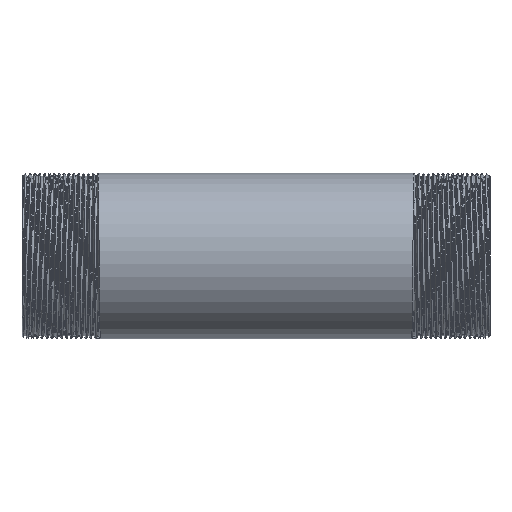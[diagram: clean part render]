
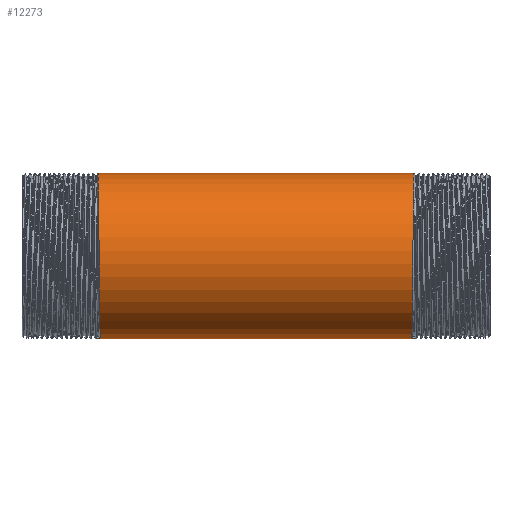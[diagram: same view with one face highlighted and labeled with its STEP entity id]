
A CAD part, front view. The second image highlights one B-rep face of the part: STEP entity #12273.
In plain terms, the highlighted cylindrical face has radius 21.2 mm (diameter 42.4 mm), a partial arc.
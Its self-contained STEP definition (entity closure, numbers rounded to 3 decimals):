
#540 = CYLINDRICAL_SURFACE ( 'NONE', #3659, 21.2 ) ;
#774 = CARTESIAN_POINT ( 'NONE',  ( -40.453, -8.781, 21.2 ) ) ;
#907 = CARTESIAN_POINT ( 'NONE',  ( 40.375, -14.991, 14.991 ) ) ;
#1525 = VECTOR ( 'NONE', #8506, 1000. ) ;
#1722 = ORIENTED_EDGE ( 'NONE', *, *, #2980, .T. ) ;
#2162 = EDGE_CURVE ( 'NONE', #3683, #11125, #13492, .T. ) ;
#2743 = CARTESIAN_POINT ( 'NONE',  ( -40.297, -21.2, 8.781 ) ) ;
#2793 = ORIENTED_EDGE ( 'NONE', *, *, #2162, .F. ) ;
#2797 = DIRECTION ( 'NONE',  ( -1., 0., 0. ) ) ;
#2864 = FACE_OUTER_BOUND ( 'NONE', #12767, .T. ) ;
#2949 = CARTESIAN_POINT ( 'NONE',  ( 40.297, -21.2, 8.781 ) ) ;
#2980 = EDGE_CURVE ( 'NONE', #9769, #11125, #4057, .T. ) ;
#3201 = ORIENTED_EDGE ( 'NONE', *, *, #6556, .T. ) ;
#3659 = AXIS2_PLACEMENT_3D ( 'NONE', #12478, #2797, #8091 ) ;
#3683 = VERTEX_POINT ( 'NONE', #10699 ) ;
#4057 = LINE ( 'NONE', #5319, #1525 ) ;
#4076 = CARTESIAN_POINT ( 'NONE',  ( 39.906, 0., -21.2 ) ) ;
#4140 = CARTESIAN_POINT ( 'NONE',  ( 39.984, -8.781, -21.2 ) ) ;
#4818 = VERTEX_POINT ( 'NONE', #13522 ) ;
#5319 = CARTESIAN_POINT ( 'NONE',  ( -149.494, 0., 21.2 ) ) ;
#5803 =( BOUNDED_CURVE ( )  B_SPLINE_CURVE ( 2, ( #4076, #4140, #12638, #13694, #6268, #2949, #907, #7266, #11581 ),
 .UNSPECIFIED., .F., .T. ) 
 B_SPLINE_CURVE_WITH_KNOTS ( ( 3, 2, 2, 2, 3 ),
 ( 0., 0.006, 0.013, 0.019, 0.025 ),
 .UNSPECIFIED. ) 
 CURVE ( )  GEOMETRIC_REPRESENTATION_ITEM ( )  RATIONAL_B_SPLINE_CURVE ( ( 1., 0.924, 1., 0.924, 1., 0.924, 1., 0.924, 1. ) ) 
 REPRESENTATION_ITEM ( '' )  );
#6059 = CARTESIAN_POINT ( 'NONE',  ( -40.219, -21.2, 0. ) ) ;
#6238 = CARTESIAN_POINT ( 'NONE',  ( -40.531, 0., 21.2 ) ) ;
#6268 = CARTESIAN_POINT ( 'NONE',  ( 40.219, -21.2, 0. ) ) ;
#6556 = EDGE_CURVE ( 'NONE', #4818, #9769, #5803, .T. ) ;
#7266 = CARTESIAN_POINT ( 'NONE',  ( 40.453, -8.781, 21.2 ) ) ;
#8087 = VECTOR ( 'NONE', #10001, 1000. ) ;
#8091 = DIRECTION ( 'NONE',  ( 0., 0., 1. ) ) ;
#8253 = CARTESIAN_POINT ( 'NONE',  ( -40.063, -14.991, -14.991 ) ) ;
#8506 = DIRECTION ( 'NONE',  ( -1., 0., 0. ) ) ;
#9769 = VERTEX_POINT ( 'NONE', #12163 ) ;
#9963 = CARTESIAN_POINT ( 'NONE',  ( -39.984, -8.781, -21.2 ) ) ;
#10001 = DIRECTION ( 'NONE',  ( -1., 0., 0. ) ) ;
#10223 = CARTESIAN_POINT ( 'NONE',  ( -40.375, -14.991, 14.991 ) ) ;
#10447 = CARTESIAN_POINT ( 'NONE',  ( -40.141, -21.2, -8.781 ) ) ;
#10699 = CARTESIAN_POINT ( 'NONE',  ( -39.906, 0., -21.2 ) ) ;
#10990 = LINE ( 'NONE', #13186, #8087 ) ;
#11125 = VERTEX_POINT ( 'NONE', #6238 ) ;
#11581 = CARTESIAN_POINT ( 'NONE',  ( 40.531, 0., 21.2 ) ) ;
#12163 = CARTESIAN_POINT ( 'NONE',  ( 40.531, 0., 21.2 ) ) ;
#12273 = ADVANCED_FACE ( 'NONE', ( #2864 ), #540, .T. ) ;
#12347 = CARTESIAN_POINT ( 'NONE',  ( -39.906, 0., -21.2 ) ) ;
#12478 = CARTESIAN_POINT ( 'NONE',  ( -149.494, 0., 0. ) ) ;
#12638 = CARTESIAN_POINT ( 'NONE',  ( 40.063, -14.991, -14.991 ) ) ;
#12767 = EDGE_LOOP ( 'NONE', ( #13030, #3201, #1722, #2793 ) ) ;
#13030 = ORIENTED_EDGE ( 'NONE', *, *, #13896, .F. ) ;
#13186 = CARTESIAN_POINT ( 'NONE',  ( -149.494, 0., -21.2 ) ) ;
#13492 =( BOUNDED_CURVE ( )  B_SPLINE_CURVE ( 2, ( #12347, #9963, #8253, #10447, #6059, #2743, #10223, #774, #13701 ),
 .UNSPECIFIED., .F., .F. ) 
 B_SPLINE_CURVE_WITH_KNOTS ( ( 3, 2, 2, 2, 3 ),
 ( 0., 0.006, 0.013, 0.019, 0.025 ),
 .UNSPECIFIED. ) 
 CURVE ( )  GEOMETRIC_REPRESENTATION_ITEM ( )  RATIONAL_B_SPLINE_CURVE ( ( 1., 0.924, 1., 0.924, 1., 0.924, 1., 0.924, 1. ) ) 
 REPRESENTATION_ITEM ( '' )  );
#13522 = CARTESIAN_POINT ( 'NONE',  ( 39.906, 0., -21.2 ) ) ;
#13694 = CARTESIAN_POINT ( 'NONE',  ( 40.141, -21.2, -8.781 ) ) ;
#13701 = CARTESIAN_POINT ( 'NONE',  ( -40.531, 0., 21.2 ) ) ;
#13896 = EDGE_CURVE ( 'NONE', #4818, #3683, #10990, .T. ) ;
